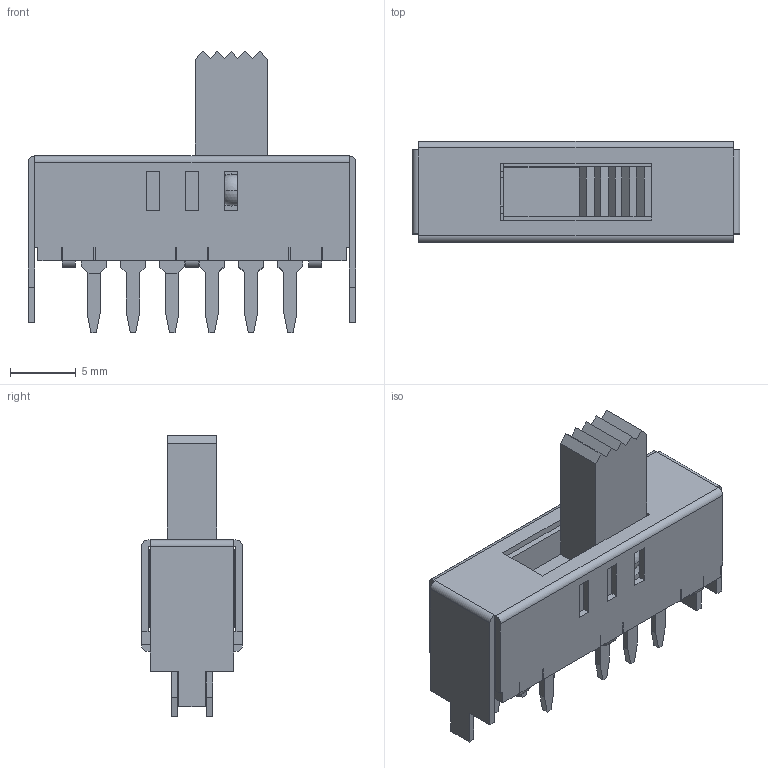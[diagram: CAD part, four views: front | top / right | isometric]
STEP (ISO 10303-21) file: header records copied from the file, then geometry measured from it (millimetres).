
FILE_DESCRIPTION((''),'2;1');
FILE_NAME('MFP231P_ASM','2017-04-01T',('Administrator'),(''),'PRO/ENGINEER BY PARAMETRIC TECHNOLOGY CORPORATION, 2009400','PRO/ENGINEER BY PARAMETRIC TECHNOLOGY CORPORATION, 2009400','');
FILE_SCHEMA(('CONFIG_CONTROL_DESIGN'));
Length unit declared in the file: millimetre
Products named in the file (1): MFP231P_ASM
Bounding box: 25 x 7.7 x 21.5 mm (x, y, z)
Volume: 1097 mm3; surface area: 2795.1 mm2
Topology: 2 solids, 2 shells, 367 faces, 1047 edges, 675 vertices
Faces by surface type: plane 336, cylinder 28, sphere 3
Entity records: 11763 total; most frequent: ORIENTED_EDGE 2086, CARTESIAN_POINT 2085, DIRECTION 1839, EDGE_CURVE 1043, VECTOR 981, LINE 981, VERTEX_POINT 675, AXIS2_PLACEMENT_3D 429
